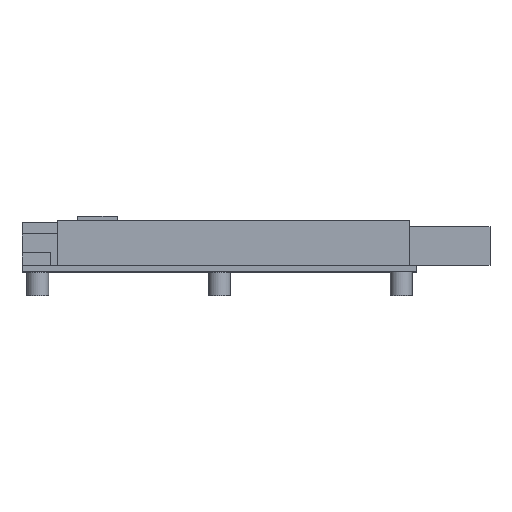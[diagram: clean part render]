
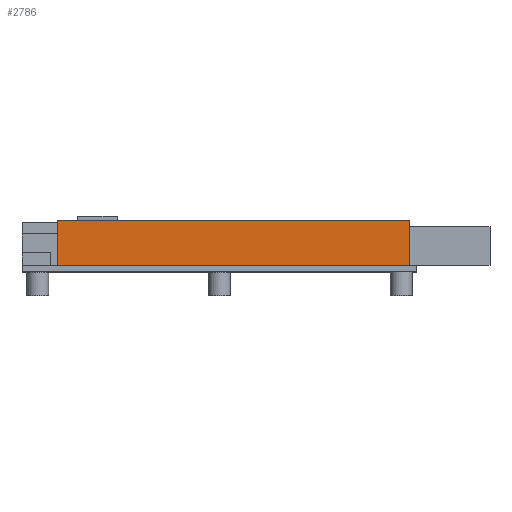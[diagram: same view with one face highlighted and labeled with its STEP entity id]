
A CAD part, top view. The second image highlights one B-rep face of the part: STEP entity #2786.
In plain terms, the highlighted planar face has unit normal (0, 0, 1).
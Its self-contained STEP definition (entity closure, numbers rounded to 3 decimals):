
#100 = PLANE('',#101);
#101 = AXIS2_PLACEMENT_3D('',#102,#103,#104);
#102 = CARTESIAN_POINT('',(98.9,-165.704,-51.2));
#103 = DIRECTION('',(0.,1.,0.));
#104 = DIRECTION('',(0.,0.,1.));
#1046 = VERTEX_POINT('',#1047);
#1047 = CARTESIAN_POINT('',(196.9,-165.704,4.55));
#1061 = PLANE('',#1062);
#1062 = AXIS2_PLACEMENT_3D('',#1063,#1064,#1065);
#1063 = CARTESIAN_POINT('',(196.9,-165.704,-2.95));
#1064 = DIRECTION('',(1.,0.,0.));
#1065 = DIRECTION('',(0.,0.,1.));
#1073 = EDGE_CURVE('',#1074,#1046,#1076,.T.);
#1074 = VERTEX_POINT('',#1075);
#1075 = CARTESIAN_POINT('',(107.9,-165.704,4.55));
#1076 = SURFACE_CURVE('',#1077,(#1081,#1088),.PCURVE_S1.);
#1077 = LINE('',#1078,#1079);
#1078 = CARTESIAN_POINT('',(107.9,-165.704,4.55));
#1079 = VECTOR('',#1080,1.);
#1080 = DIRECTION('',(1.,0.,0.));
#1081 = PCURVE('',#100,#1082);
#1082 = DEFINITIONAL_REPRESENTATION('',(#1083),#1087);
#1083 = LINE('',#1084,#1085);
#1084 = CARTESIAN_POINT('',(55.75,9.));
#1085 = VECTOR('',#1086,1.);
#1086 = DIRECTION('',(0.,1.));
#1087 = ( GEOMETRIC_REPRESENTATION_CONTEXT(2) 
PARAMETRIC_REPRESENTATION_CONTEXT() REPRESENTATION_CONTEXT('2D SPACE',''
  ) );
#1088 = PCURVE('',#1089,#1094);
#1089 = PLANE('',#1090);
#1090 = AXIS2_PLACEMENT_3D('',#1091,#1092,#1093);
#1091 = CARTESIAN_POINT('',(107.9,-165.704,4.55));
#1092 = DIRECTION('',(0.,0.,1.));
#1093 = DIRECTION('',(1.,0.,0.));
#1094 = DEFINITIONAL_REPRESENTATION('',(#1095),#1099);
#1095 = LINE('',#1096,#1097);
#1096 = CARTESIAN_POINT('',(0.,0.));
#1097 = VECTOR('',#1098,1.);
#1098 = DIRECTION('',(1.,0.));
#1099 = ( GEOMETRIC_REPRESENTATION_CONTEXT(2) 
PARAMETRIC_REPRESENTATION_CONTEXT() REPRESENTATION_CONTEXT('2D SPACE',''
  ) );
#1117 = PLANE('',#1118);
#1118 = AXIS2_PLACEMENT_3D('',#1119,#1120,#1121);
#1119 = CARTESIAN_POINT('',(107.9,-165.704,-2.95));
#1120 = DIRECTION('',(1.,0.,0.));
#1121 = DIRECTION('',(0.,0.,1.));
#2588 = VERTEX_POINT('',#2589);
#2589 = CARTESIAN_POINT('',(196.9,-154.454,4.55));
#2603 = PLANE('',#2604);
#2604 = AXIS2_PLACEMENT_3D('',#2605,#2606,#2607);
#2605 = CARTESIAN_POINT('',(107.9,-154.454,-2.95));
#2606 = DIRECTION('',(0.,1.,0.));
#2607 = DIRECTION('',(0.,0.,1.));
#2615 = EDGE_CURVE('',#1046,#2588,#2616,.T.);
#2616 = SURFACE_CURVE('',#2617,(#2621,#2628),.PCURVE_S1.);
#2617 = LINE('',#2618,#2619);
#2618 = CARTESIAN_POINT('',(196.9,-165.704,4.55));
#2619 = VECTOR('',#2620,1.);
#2620 = DIRECTION('',(0.,1.,0.));
#2621 = PCURVE('',#1061,#2622);
#2622 = DEFINITIONAL_REPRESENTATION('',(#2623),#2627);
#2623 = LINE('',#2624,#2625);
#2624 = CARTESIAN_POINT('',(7.5,0.));
#2625 = VECTOR('',#2626,1.);
#2626 = DIRECTION('',(0.,-1.));
#2627 = ( GEOMETRIC_REPRESENTATION_CONTEXT(2) 
PARAMETRIC_REPRESENTATION_CONTEXT() REPRESENTATION_CONTEXT('2D SPACE',''
  ) );
#2628 = PCURVE('',#1089,#2629);
#2629 = DEFINITIONAL_REPRESENTATION('',(#2630),#2634);
#2630 = LINE('',#2631,#2632);
#2631 = CARTESIAN_POINT('',(89.,0.));
#2632 = VECTOR('',#2633,1.);
#2633 = DIRECTION('',(0.,1.));
#2634 = ( GEOMETRIC_REPRESENTATION_CONTEXT(2) 
PARAMETRIC_REPRESENTATION_CONTEXT() REPRESENTATION_CONTEXT('2D SPACE',''
  ) );
#2744 = VERTEX_POINT('',#2745);
#2745 = CARTESIAN_POINT('',(107.9,-154.454,4.55));
#2766 = EDGE_CURVE('',#1074,#2744,#2767,.T.);
#2767 = SURFACE_CURVE('',#2768,(#2772,#2779),.PCURVE_S1.);
#2768 = LINE('',#2769,#2770);
#2769 = CARTESIAN_POINT('',(107.9,-165.704,4.55));
#2770 = VECTOR('',#2771,1.);
#2771 = DIRECTION('',(0.,1.,0.));
#2772 = PCURVE('',#1117,#2773);
#2773 = DEFINITIONAL_REPRESENTATION('',(#2774),#2778);
#2774 = LINE('',#2775,#2776);
#2775 = CARTESIAN_POINT('',(7.5,0.));
#2776 = VECTOR('',#2777,1.);
#2777 = DIRECTION('',(0.,-1.));
#2778 = ( GEOMETRIC_REPRESENTATION_CONTEXT(2) 
PARAMETRIC_REPRESENTATION_CONTEXT() REPRESENTATION_CONTEXT('2D SPACE',''
  ) );
#2779 = PCURVE('',#1089,#2780);
#2780 = DEFINITIONAL_REPRESENTATION('',(#2781),#2785);
#2781 = LINE('',#2782,#2783);
#2782 = CARTESIAN_POINT('',(0.,0.));
#2783 = VECTOR('',#2784,1.);
#2784 = DIRECTION('',(0.,1.));
#2785 = ( GEOMETRIC_REPRESENTATION_CONTEXT(2) 
PARAMETRIC_REPRESENTATION_CONTEXT() REPRESENTATION_CONTEXT('2D SPACE',''
  ) );
#2786 = ADVANCED_FACE('',(#2787),#1089,.T.);
#2787 = FACE_BOUND('',#2788,.T.);
#2788 = EDGE_LOOP('',(#2789,#2790,#2791,#2792));
#2789 = ORIENTED_EDGE('',*,*,#2766,.F.);
#2790 = ORIENTED_EDGE('',*,*,#1073,.T.);
#2791 = ORIENTED_EDGE('',*,*,#2615,.T.);
#2792 = ORIENTED_EDGE('',*,*,#2793,.F.);
#2793 = EDGE_CURVE('',#2744,#2588,#2794,.T.);
#2794 = SURFACE_CURVE('',#2795,(#2799,#2806),.PCURVE_S1.);
#2795 = LINE('',#2796,#2797);
#2796 = CARTESIAN_POINT('',(107.9,-154.454,4.55));
#2797 = VECTOR('',#2798,1.);
#2798 = DIRECTION('',(1.,0.,0.));
#2799 = PCURVE('',#1089,#2800);
#2800 = DEFINITIONAL_REPRESENTATION('',(#2801),#2805);
#2801 = LINE('',#2802,#2803);
#2802 = CARTESIAN_POINT('',(0.,11.25));
#2803 = VECTOR('',#2804,1.);
#2804 = DIRECTION('',(1.,0.));
#2805 = ( GEOMETRIC_REPRESENTATION_CONTEXT(2) 
PARAMETRIC_REPRESENTATION_CONTEXT() REPRESENTATION_CONTEXT('2D SPACE',''
  ) );
#2806 = PCURVE('',#2603,#2807);
#2807 = DEFINITIONAL_REPRESENTATION('',(#2808),#2812);
#2808 = LINE('',#2809,#2810);
#2809 = CARTESIAN_POINT('',(7.5,0.));
#2810 = VECTOR('',#2811,1.);
#2811 = DIRECTION('',(0.,1.));
#2812 = ( GEOMETRIC_REPRESENTATION_CONTEXT(2) 
PARAMETRIC_REPRESENTATION_CONTEXT() REPRESENTATION_CONTEXT('2D SPACE',''
  ) );
